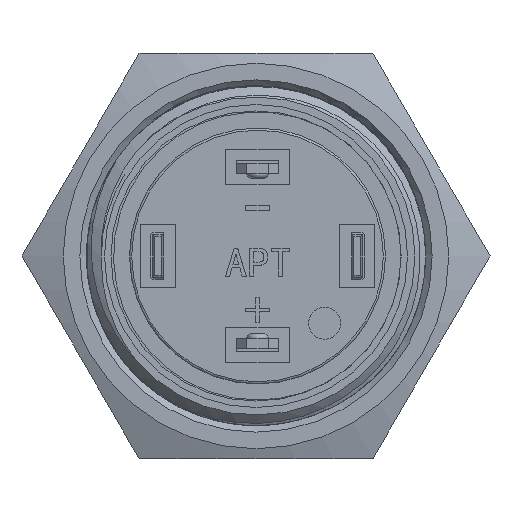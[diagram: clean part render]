
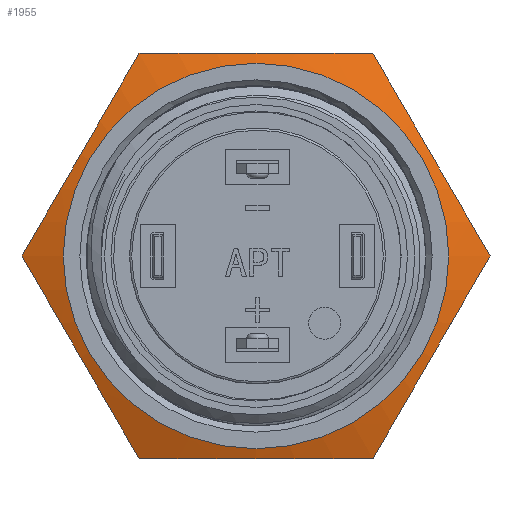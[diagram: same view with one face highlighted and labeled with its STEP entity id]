
A CAD part, front view. The second image highlights one B-rep face of the part: STEP entity #1955.
In plain terms, the highlighted conical face has half-angle 70.116 degrees and reference radius 10.97 mm.
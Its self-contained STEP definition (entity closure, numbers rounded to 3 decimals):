
#1098=CONICAL_SURFACE('',#9374,10.97,70.116);
#1184=B_SPLINE_CURVE_WITH_KNOTS('',3,(#15783,#15784,#15785,#15786,#15787),
 .UNSPECIFIED.,.F.,.F.,(4,1,4),(0.,0.5,1.),.UNSPECIFIED.);
#1186=B_SPLINE_CURVE_WITH_KNOTS('',3,(#15797,#15798,#15799,#15800,#15801),
 .UNSPECIFIED.,.F.,.F.,(4,1,4),(0.,0.5,1.),.UNSPECIFIED.);
#1188=B_SPLINE_CURVE_WITH_KNOTS('',3,(#15811,#15812,#15813,#15814,#15815),
 .UNSPECIFIED.,.F.,.F.,(4,1,4),(0.,0.5,1.),.UNSPECIFIED.);
#1190=B_SPLINE_CURVE_WITH_KNOTS('',3,(#15825,#15826,#15827,#15828,#15829),
 .UNSPECIFIED.,.F.,.F.,(4,1,4),(0.,0.5,1.),.UNSPECIFIED.);
#1192=B_SPLINE_CURVE_WITH_KNOTS('',3,(#15839,#15840,#15841,#15842,#15843),
 .UNSPECIFIED.,.F.,.F.,(4,1,4),(0.,0.5,1.),.UNSPECIFIED.);
#1194=B_SPLINE_CURVE_WITH_KNOTS('',3,(#15850,#15851,#15852,#15853,#15854),
 .UNSPECIFIED.,.F.,.F.,(4,1,4),(0.,0.5,1.),.UNSPECIFIED.);
#1399=FACE_BOUND('',#3114,.T.);
#1400=FACE_BOUND('',#3115,.T.);
#1585=CIRCLE('',#9373,9.034);
#1955=ADVANCED_FACE('',(#1399,#1400),#1098,.T.);
#3114=EDGE_LOOP('',(#4713));
#3115=EDGE_LOOP('',(#4714,#4715,#4716,#4717,#4718,#4719));
#4713=ORIENTED_EDGE('',*,*,#7069,.T.);
#4714=ORIENTED_EDGE('',*,*,#7067,.F.);
#4715=ORIENTED_EDGE('',*,*,#7065,.F.);
#4716=ORIENTED_EDGE('',*,*,#7062,.F.);
#4717=ORIENTED_EDGE('',*,*,#7059,.F.);
#4718=ORIENTED_EDGE('',*,*,#7056,.F.);
#4719=ORIENTED_EDGE('',*,*,#7053,.F.);
#6079=VERTEX_POINT('',#15774);
#6081=VERTEX_POINT('',#15782);
#6083=VERTEX_POINT('',#15791);
#6085=VERTEX_POINT('',#15805);
#6087=VERTEX_POINT('',#15819);
#6089=VERTEX_POINT('',#15833);
#6091=VERTEX_POINT('',#15860);
#7053=EDGE_CURVE('',#6081,#6079,#1184,.T.);
#7056=EDGE_CURVE('',#6079,#6083,#1186,.T.);
#7059=EDGE_CURVE('',#6083,#6085,#1188,.T.);
#7062=EDGE_CURVE('',#6085,#6087,#1190,.T.);
#7065=EDGE_CURVE('',#6087,#6089,#1192,.T.);
#7067=EDGE_CURVE('',#6089,#6081,#1194,.T.);
#7069=EDGE_CURVE('',#6091,#6091,#1585,.T.);
#9373=AXIS2_PLACEMENT_3D('',#15859,#10949,#10950);
#9374=AXIS2_PLACEMENT_3D('',#15861,#10951,#10952);
#10949=DIRECTION('',(0.,1.,0.));
#10950=DIRECTION('',(-1.,0.,0.));
#10951=DIRECTION('',(0.,1.,0.));
#10952=DIRECTION('',(1.,0.,0.));
#15774=CARTESIAN_POINT('',(5.485,12.65,9.5));
#15782=CARTESIAN_POINT('',(-5.485,12.65,9.5));
#15783=CARTESIAN_POINT('',(-5.485,12.65,9.5));
#15784=CARTESIAN_POINT('',(-3.657,12.319,9.5));
#15785=CARTESIAN_POINT('',(0.,11.918,9.5));
#15786=CARTESIAN_POINT('',(3.657,12.319,9.5));
#15787=CARTESIAN_POINT('',(5.485,12.65,9.5));
#15791=CARTESIAN_POINT('',(10.97,12.65,0.));
#15797=CARTESIAN_POINT('',(5.485,12.65,9.5));
#15798=CARTESIAN_POINT('',(6.399,12.319,7.917));
#15799=CARTESIAN_POINT('',(8.227,11.918,4.75));
#15800=CARTESIAN_POINT('',(10.056,12.319,1.583));
#15801=CARTESIAN_POINT('',(10.97,12.65,0.));
#15805=CARTESIAN_POINT('',(5.485,12.65,-9.5));
#15811=CARTESIAN_POINT('',(10.97,12.65,0.));
#15812=CARTESIAN_POINT('',(10.056,12.319,-1.583));
#15813=CARTESIAN_POINT('',(8.227,11.918,-4.75));
#15814=CARTESIAN_POINT('',(6.399,12.319,-7.917));
#15815=CARTESIAN_POINT('',(5.485,12.65,-9.5));
#15819=CARTESIAN_POINT('',(-5.485,12.65,-9.5));
#15825=CARTESIAN_POINT('',(5.485,12.65,-9.5));
#15826=CARTESIAN_POINT('',(3.657,12.319,-9.5));
#15827=CARTESIAN_POINT('',(0.,11.918,-9.5));
#15828=CARTESIAN_POINT('',(-3.657,12.319,-9.5));
#15829=CARTESIAN_POINT('',(-5.485,12.65,-9.5));
#15833=CARTESIAN_POINT('',(-10.97,12.65,0.));
#15839=CARTESIAN_POINT('',(-5.485,12.65,-9.5));
#15840=CARTESIAN_POINT('',(-6.399,12.319,-7.917));
#15841=CARTESIAN_POINT('',(-8.227,11.918,-4.75));
#15842=CARTESIAN_POINT('',(-10.056,12.319,-1.583));
#15843=CARTESIAN_POINT('',(-10.97,12.65,0.));
#15850=CARTESIAN_POINT('',(-10.97,12.65,0.));
#15851=CARTESIAN_POINT('',(-10.056,12.319,1.583));
#15852=CARTESIAN_POINT('',(-8.227,11.918,4.75));
#15853=CARTESIAN_POINT('',(-6.399,12.319,7.917));
#15854=CARTESIAN_POINT('',(-5.485,12.65,9.5));
#15859=CARTESIAN_POINT('',(0.,11.95,0.));
#15860=CARTESIAN_POINT('',(-9.034,11.95,0.));
#15861=CARTESIAN_POINT('',(0.,12.65,0.));
